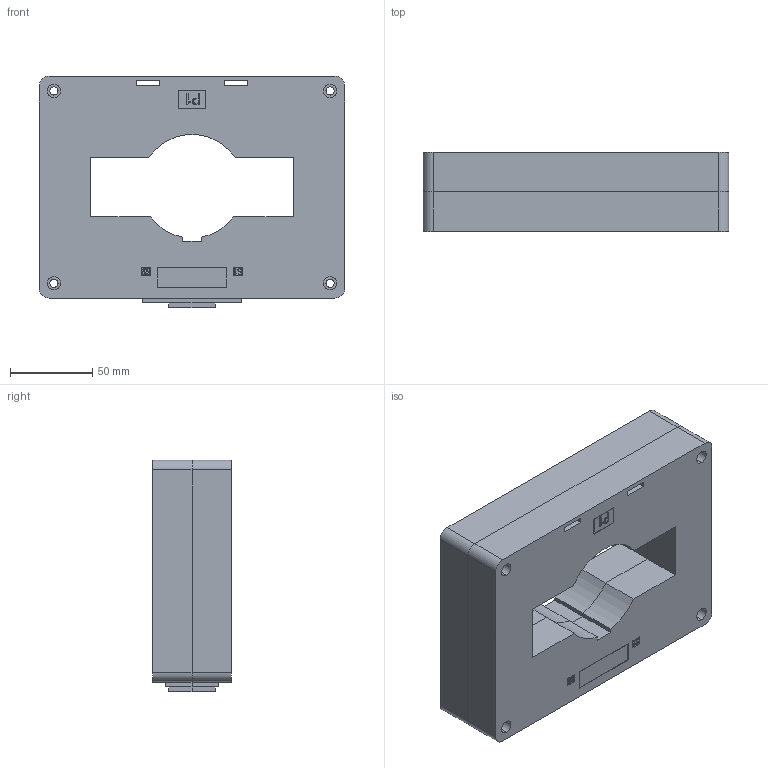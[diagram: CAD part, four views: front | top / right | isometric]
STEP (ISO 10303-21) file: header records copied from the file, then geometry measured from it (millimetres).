
FILE_DESCRIPTION (( 'STEP AP214' ), '1' );
FILE_NAME ('125.STEP', '2015-06-11T00:51:20', ( 'User' ), ( 'Microsoft' ), 'SwSTEP 2.0', 'SolidWorks 2012', '' );
FILE_SCHEMA (( 'AUTOMOTIVE_DESIGN' ));
Length unit declared in the file: millimetre
Products named in the file (3): 125SHAN; 125XIA; 125
Assembly tree (2 placements, depth 2):
  125
    125SHAN
    125XIA
Bounding box: 186 x 48 x 141 mm (x, y, z)
Volume: 214936 mm3; surface area: 183637.9 mm2
Topology: 2 solids, 2 shells, 626 faces, 1698 edges, 1124 vertices
Faces by surface type: plane 320, bspline 182, cylinder 100, cone 16, torus 8
Entity records: 25388 total; most frequent: CARTESIAN_POINT 10467, ORIENTED_EDGE 3396, DIRECTION 2464, EDGE_CURVE 1698, VERTEX_POINT 1124, LINE 1102, VECTOR 1102, EDGE_LOOP 702
